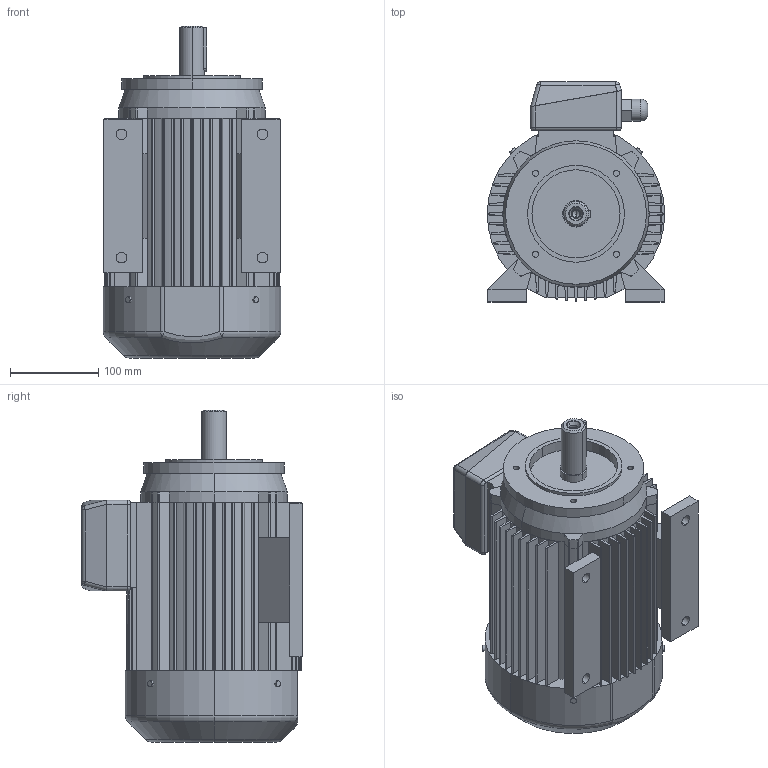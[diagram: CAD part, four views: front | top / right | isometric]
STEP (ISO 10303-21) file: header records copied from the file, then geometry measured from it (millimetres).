
FILE_DESCRIPTION (( 'STEP AP203' ), '1' );
FILE_NAME ('2SIEL100L2,6-B34-C2.STEP', '2013-01-07T13:05:25', ( 'INDUKTA' ), ( 'CANTONI MOTOR' ), 'SwSTEP 2.0', 'SolidWorks 2003064', '' );
FILE_SCHEMA (( 'CONFIG_CONTROL_DESIGN' ));
Length unit declared in the file: millimetre
Products named in the file (1): 2SIEL100L2,6-B34-C2
Bounding box: 201.5 x 250 x 377 mm (x, y, z)
Volume: 8927766 mm3; surface area: 653947.8 mm2
Topology: 13 solids, 13 shells, 424 faces, 1103 edges, 706 vertices
Faces by surface type: plane 197, cylinder 195, cone 14, torus 11, sphere 6, bspline 1
Entity records: 13523 total; most frequent: CARTESIAN_POINT 2800, DIRECTION 2329, ORIENTED_EDGE 2190, EDGE_CURVE 1095, AXIS2_PLACEMENT_3D 837, VERTEX_POINT 706, LINE 655, VECTOR 655
